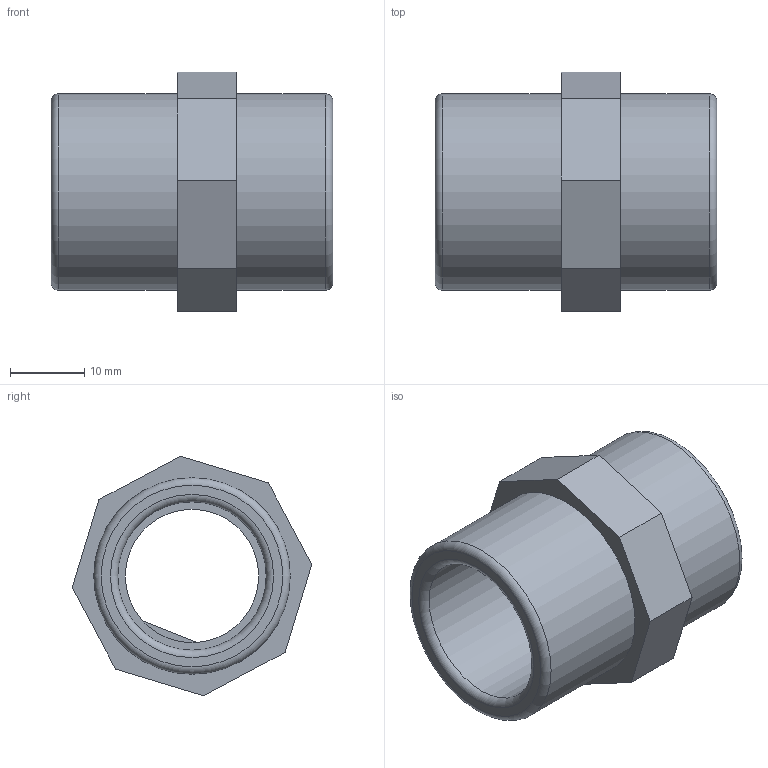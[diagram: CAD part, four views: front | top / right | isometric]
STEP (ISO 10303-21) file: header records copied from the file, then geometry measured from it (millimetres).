
FILE_DESCRIPTION(/* description */ (''),/* implementation_level */ '2;1');
FILE_NAME(/* name */ 'C:\Users\Gabriele\Desktop\disegni 3D\SO12\SO12020B.ipt.stp',/* time_stamp */ '2017-02-10T09:52:31+01:00',/* author */ ('Eugenio'),/* organization */ (''),/* preprocessor_version */ 'ST-DEVELOPER v16.5',/* originating_system */ 'Autodesk Inventor 2017',/* authorisation */ '');
FILE_SCHEMA (('AUTOMOTIVE_DESIGN { 1 0 10303 214 3 1 1 }'));
Length unit declared in the file: millimetre
Products named in the file (1): SO12020B
Bounding box: 38 x 32.32 x 32.32 mm (x, y, z)
Volume: 10988.2 mm3; surface area: 9018.5 mm2
Topology: 2 solids, 2 shells, 33 faces, 73 edges, 48 vertices
Faces by surface type: plane 16, cylinder 7, bspline 6, torus 4
Full cylindrical faces by diameter (mm): 18 x1, 20 x1, 20.96 x2, 26.5 x2
Entity records: 4479 total; most frequent: CARTESIAN_POINT 3804, ORIENTED_EDGE 122, DIRECTION 116, EDGE_CURVE 61, EDGE_LOOP 51, VERTEX_POINT 46, AXIS2_PLACEMENT_3D 46, FACE_OUTER_BOUND 33
